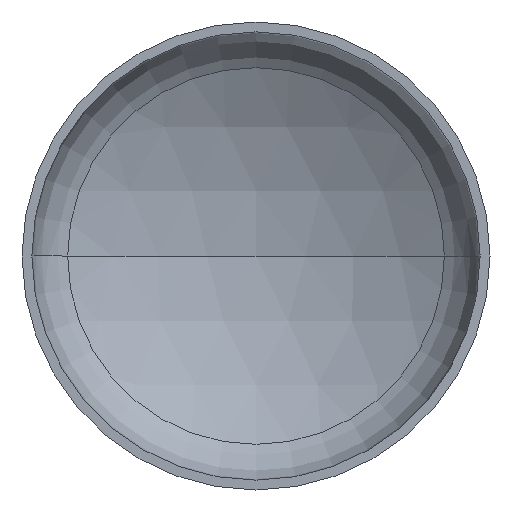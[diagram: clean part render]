
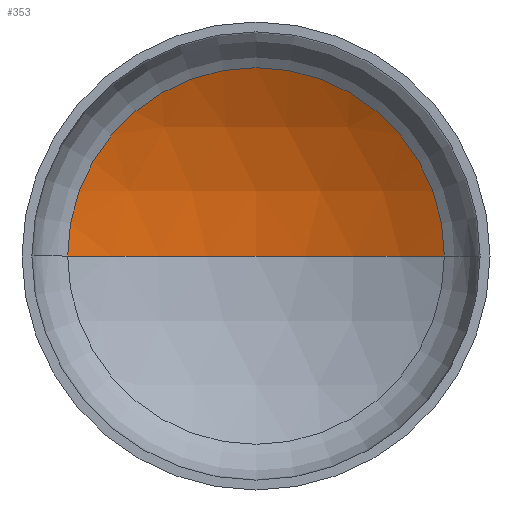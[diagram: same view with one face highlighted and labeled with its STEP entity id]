
A CAD part, front view. The second image highlights one B-rep face of the part: STEP entity #353.
In plain terms, the highlighted spherical face has radius 3040 mm.
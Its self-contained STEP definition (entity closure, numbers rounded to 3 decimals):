
#15 = CARTESIAN_POINT ( 'NONE',  ( 1529.287, 625.589, 0. ) ) ;
#21 = DIRECTION ( 'NONE',  ( 1., 0., 0. ) ) ;
#24 = DIRECTION ( 'NONE',  ( 0., 0., 1. ) ) ;
#25 = CIRCLE ( 'NONE', #27, 3040. ) ;
#27 = AXIS2_PLACEMENT_3D ( 'NONE', #357, #24, #21 ) ;
#28 = VERTEX_POINT ( 'NONE', #257 ) ;
#32 = VERTEX_POINT ( 'NONE', #290 ) ;
#33 = EDGE_LOOP ( 'NONE', ( #114, #69, #126 ) ) ;
#34 = AXIS2_PLACEMENT_3D ( 'NONE', #195, #268, #48 ) ;
#36 = AXIS2_PLACEMENT_3D ( 'NONE', #213, #209, #211 ) ;
#48 = DIRECTION ( 'NONE',  ( -1., 0., 0. ) ) ;
#69 = ORIENTED_EDGE ( 'NONE', *, *, #83, .T. ) ;
#79 = EDGE_CURVE ( 'NONE', #105, #32, #305, .T. ) ;
#83 = EDGE_CURVE ( 'NONE', #28, #105, #244, .T. ) ;
#85 = EDGE_CURVE ( 'NONE', #28, #32, #25, .T. ) ;
#105 = VERTEX_POINT ( 'NONE', #15 ) ;
#114 = ORIENTED_EDGE ( 'NONE', *, *, #85, .F. ) ;
#120 = DIRECTION ( 'NONE',  ( 0., 0., -1. ) ) ;
#126 = ORIENTED_EDGE ( 'NONE', *, *, #79, .T. ) ;
#188 = DIRECTION ( 'NONE',  ( -1., 0., 0. ) ) ;
#195 = CARTESIAN_POINT ( 'NONE',  ( 0., -2001.745, 0. ) ) ;
#199 = SPHERICAL_SURFACE ( 'NONE', #294, 3040. ) ;
#207 = FACE_OUTER_BOUND ( 'NONE', #33, .T. ) ;
#209 = DIRECTION ( 'NONE',  ( 0., -1., 0. ) ) ;
#211 = DIRECTION ( 'NONE',  ( 1., 0., 0. ) ) ;
#213 = CARTESIAN_POINT ( 'NONE',  ( 0., 625.589, 0. ) ) ;
#244 = CIRCLE ( 'NONE', #34, 3040. ) ;
#257 = CARTESIAN_POINT ( 'NONE',  ( 0., 1038.255, 0. ) ) ;
#268 = DIRECTION ( 'NONE',  ( 0., 0., -1. ) ) ;
#269 = CARTESIAN_POINT ( 'NONE',  ( 0., -2001.745, 0. ) ) ;
#290 = CARTESIAN_POINT ( 'NONE',  ( -1529.287, 625.589, 0. ) ) ;
#294 = AXIS2_PLACEMENT_3D ( 'NONE', #269, #120, #188 ) ;
#305 = CIRCLE ( 'NONE', #36, 1529.287 ) ;
#353 = ADVANCED_FACE ( 'NONE', ( #207 ), #199, .F. ) ;
#357 = CARTESIAN_POINT ( 'NONE',  ( 0., -2001.745, 0. ) ) ;
